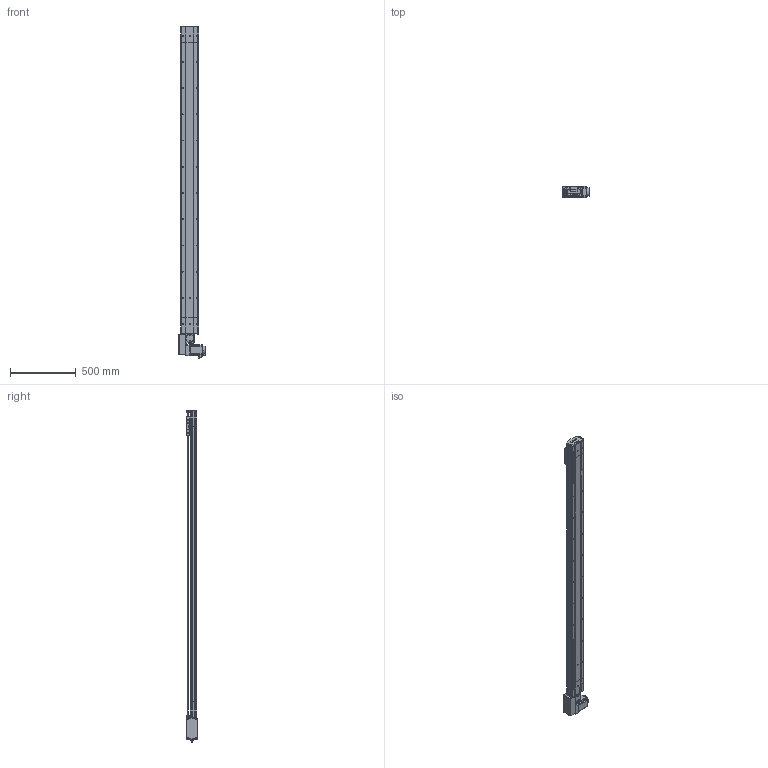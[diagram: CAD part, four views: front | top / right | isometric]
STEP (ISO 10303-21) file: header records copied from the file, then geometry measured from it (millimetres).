
FILE_DESCRIPTION (( 'STEP AP214' ), '1' );
FILE_NAME ('D14 TBH RH S2100.STEP', '2010-06-29T14:17:56', ( 'Conseil Régional Haute-Normandie' ), ( 'Conseil Régional Haute-Normandie' ), 'SwSTEP 2.0', 'SolidWorks 2010', '' );
FILE_SCHEMA (( 'AUTOMOTIVE_DESIGN' ));
Length unit declared in the file: millimetre
Products named in the file (39): avant 90BLDC100A-640; couvercle D14 course L2100_Default; vis M5 L8 90°_Default; couvercle D14 head_Default; vis M5 L16_Default; plaque de  bout head D14 RH_Default; D14 TB H RH_Default; couroie 2_Default; couvercle D14_Default; Moteur motionking 90BLDC100A-640; Tail D14B_Default; poulie tail_Default; poulie head_Default; Arbre+rail head D14; Arbre+rail tail D14; corps 90BLDC100A-640; tete d''axe haut D14; Couroie_Default; plaque de  bout tail D14_Default; corpl tail D14_Default; corp head D14_Default; Vis M5 L16-2_Default; codeur 90BLDC100-640; Cache arbre_Default; Chariot D14; Conecteur2_Default; Cvis M5 L70_Default; vis M5 L5_Default; vis M5 L12_Default; renvoi RH_Default; Cache_Default; chariot D14B_Default; Conecteur_Default; guide D14; Plaque racord D14_Default; Rail + couroie D14 Course 2100 ; D14 couroie L2100_Default; corpl 2100_Default; D14 TBH RH S2100
Assembly tree (68 placements, depth 4):
  D14 TBH RH S2100
    Tail D14B_Default
      Arbre+rail tail D14
      vis M5 L12_Default  x4
      vis M5 L8 90°_Default  x2
      vis M5 L16_Default  x2
      tete d''axe haut D14
      Couroie_Default
      plaque de  bout tail D14_Default
      poulie tail_Default
      couvercle D14_Default
      corpl tail D14_Default
    chariot D14B_Default
      guide D14  x2
      vis M5 L12_Default  x4
      Chariot D14
    D14 couroie L2100_Default
      corpl 2100_Default
      couvercle D14 course L2100_Default
      Rail + couroie D14 Course 2100 
    D14 TB H RH_Default
      vis M5 L12_Default  x12
      Cvis M5 L70_Default  x4
      Cache_Default  x2
      poulie head_Default
      renvoi RH_Default
      couroie 2_Default
      Vis M5 L16-2_Default  x4
      vis M5 L5_Default  x2
      couvercle D14 head_Default
      Cache arbre_Default
      Plaque racord D14_Default
      Arbre+rail head D14
      plaque de  bout head D14 RH_Default
      corp head D14_Default
      Moteur motionking 90BLDC100A-640
        Conecteur_Default
        corps 90BLDC100A-640
        avant 90BLDC100A-640
        Conecteur2_Default
        codeur 90BLDC100-640
Bounding box: 207.2 x 85.9 x 2532.45 mm (x, y, z)
Volume: 9429791.1 mm3; surface area: 3332263.7 mm2
Topology: 92 solids, 92 shells, 2693 faces, 6575 edges, 4242 vertices
Faces by surface type: plane 1605, cylinder 775, bspline 136, torus 89, cone 84, sphere 4
Entity records: 81044 total; most frequent: CARTESIAN_POINT 23849, ORIENTED_EDGE 10010, DIRECTION 9864, EDGE_CURVE 5005, LINE 3322, VECTOR 3322, VERTEX_POINT 3292, AXIS2_PLACEMENT_3D 3271
